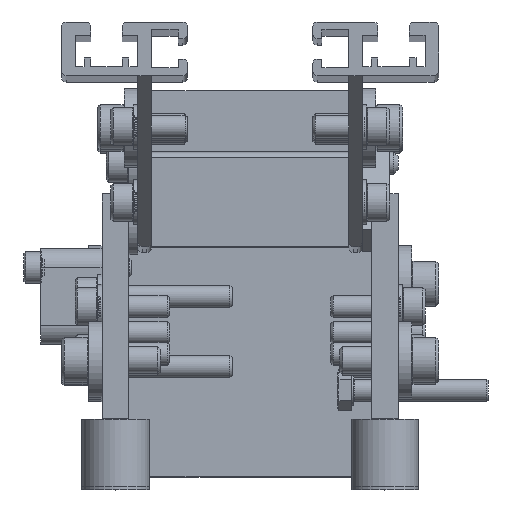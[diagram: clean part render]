
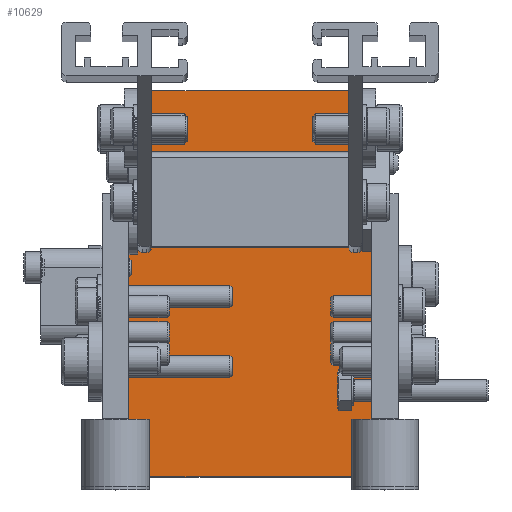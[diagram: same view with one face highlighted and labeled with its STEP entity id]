
A CAD part, top view. The second image highlights one B-rep face of the part: STEP entity #10629.
In plain terms, the highlighted planar face has unit normal (0, 0, 1).
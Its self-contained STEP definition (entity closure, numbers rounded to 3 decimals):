
#253=LINE('',#17817,#785);
#254=LINE('',#17820,#786);
#255=LINE('',#17822,#787);
#256=LINE('',#17824,#788);
#785=VECTOR('',#14328,1000.);
#786=VECTOR('',#14329,1000.);
#787=VECTOR('',#14330,1000.);
#788=VECTOR('',#14331,1000.);
#1919=PLANE('',#12090);
#3132=ORIENTED_EDGE('',*,*,#5180,.T.);
#3133=ORIENTED_EDGE('',*,*,#5181,.F.);
#3134=ORIENTED_EDGE('',*,*,#5182,.F.);
#3135=ORIENTED_EDGE('',*,*,#5183,.T.);
#5180=EDGE_CURVE('',#6316,#6317,#253,.T.);
#5181=EDGE_CURVE('',#6318,#6317,#254,.T.);
#5182=EDGE_CURVE('',#6319,#6318,#255,.T.);
#5183=EDGE_CURVE('',#6319,#6316,#256,.T.);
#6316=VERTEX_POINT('',#17818);
#6317=VERTEX_POINT('',#17819);
#6318=VERTEX_POINT('',#17821);
#6319=VERTEX_POINT('',#17823);
#8000=EDGE_LOOP('',(#3132,#3133,#3134,#3135));
#9296=FACE_BOUND('',#8000,.T.);
#10629=ADVANCED_FACE('',(#9296),#1919,.F.);
#12090=AXIS2_PLACEMENT_3D('',#17816,#14326,#14327);
#14326=DIRECTION('',(0.,0.,-1.));
#14327=DIRECTION('',(0.,-1.,0.));
#14328=DIRECTION('',(0.,-1.,0.));
#14329=DIRECTION('',(-1.,0.,0.));
#14330=DIRECTION('',(0.,-1.,0.));
#14331=DIRECTION('',(-1.,0.,0.));
#17816=CARTESIAN_POINT('',(27.,-100.,-355.));
#17817=CARTESIAN_POINT('',(-27.,-100.,-355.));
#17818=CARTESIAN_POINT('',(-27.,-14.,-355.));
#17819=CARTESIAN_POINT('',(-27.,-100.,-355.));
#17820=CARTESIAN_POINT('',(27.,-100.,-355.));
#17821=CARTESIAN_POINT('',(27.,-100.,-355.));
#17822=CARTESIAN_POINT('',(27.,-100.,-355.));
#17823=CARTESIAN_POINT('',(27.,-14.,-355.));
#17824=CARTESIAN_POINT('',(27.,-14.,-355.));
